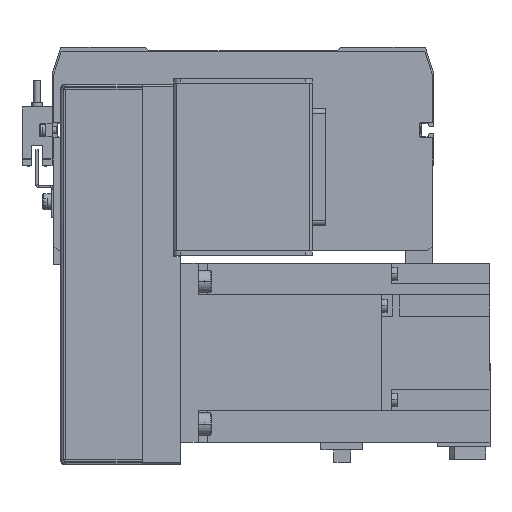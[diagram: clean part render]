
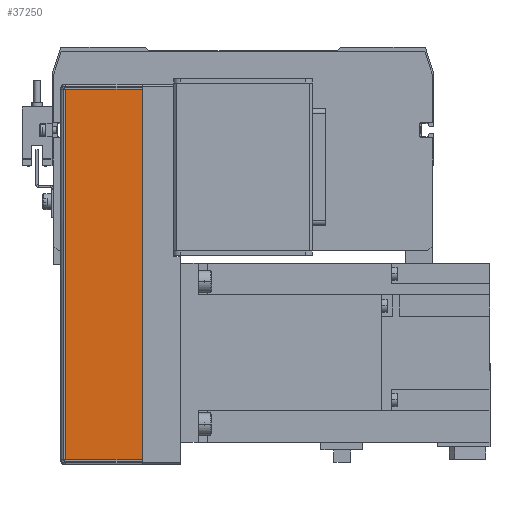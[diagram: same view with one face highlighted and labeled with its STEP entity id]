
A CAD part, front view. The second image highlights one B-rep face of the part: STEP entity #37250.
In plain terms, the highlighted planar face has unit normal (0, -1, 0) as drawn and (0, 1, 0) by its records, which use the part's own axes.
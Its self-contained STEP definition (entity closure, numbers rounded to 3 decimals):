
#1424 = CARTESIAN_POINT ( 'NONE',  ( -67.862, 39.222, 211.263 ) ) ;
#2357 = EDGE_CURVE ( 'NONE', #39058, #32518, #35622, .T. ) ;
#6131 = VECTOR ( 'NONE', #29365, 1000. ) ;
#7008 = ORIENTED_EDGE ( 'NONE', *, *, #34367, .F. ) ;
#7024 = CARTESIAN_POINT ( 'NONE',  ( 97.724, 39.222, 177. ) ) ;
#7202 = PLANE ( 'NONE',  #27608 ) ;
#8734 = VECTOR ( 'NONE', #32396, 1000. ) ;
#9354 = ORIENTED_EDGE ( 'NONE', *, *, #10338, .T. ) ;
#10251 = CARTESIAN_POINT ( 'NONE',  ( 14.931, 39.222, 213.5 ) ) ;
#10338 = EDGE_CURVE ( 'NONE', #32518, #17880, #22208, .T. ) ;
#10984 = CARTESIAN_POINT ( 'NONE',  ( 14.931, 39.222, 177. ) ) ;
#11244 = LINE ( 'NONE', #19527, #15990 ) ;
#12095 = EDGE_LOOP ( 'NONE', ( #15531, #7008, #28797, #9354 ) ) ;
#14475 = CARTESIAN_POINT ( 'NONE',  ( -70.069, 39.222, 211.263 ) ) ;
#15531 = ORIENTED_EDGE ( 'NONE', *, *, #21710, .F. ) ;
#15631 = CARTESIAN_POINT ( 'NONE',  ( -67.862, 39.222, 177. ) ) ;
#15990 = VECTOR ( 'NONE', #25867, 1000. ) ;
#17652 = DIRECTION ( 'NONE',  ( -1., 0., 0. ) ) ;
#17880 = VERTEX_POINT ( 'NONE', #15631 ) ;
#19240 = LINE ( 'NONE', #14475, #27232 ) ;
#19527 = CARTESIAN_POINT ( 'NONE',  ( -67.862, 39.222, 212. ) ) ;
#19776 = DIRECTION ( 'NONE',  ( 0., 0., -1. ) ) ;
#21710 = EDGE_CURVE ( 'NONE', #28356, #17880, #11244, .T. ) ;
#22208 = LINE ( 'NONE', #10984, #6131 ) ;
#22791 = DIRECTION ( 'NONE',  ( 0., -1., 0. ) ) ;
#23166 = CARTESIAN_POINT ( 'NONE',  ( 97.724, 39.222, 211.263 ) ) ;
#25867 = DIRECTION ( 'NONE',  ( 0., 0., -1. ) ) ;
#27232 = VECTOR ( 'NONE', #17652, 1000. ) ;
#27608 = AXIS2_PLACEMENT_3D ( 'NONE', #10251, #22791, #19776 ) ;
#28356 = VERTEX_POINT ( 'NONE', #1424 ) ;
#28797 = ORIENTED_EDGE ( 'NONE', *, *, #2357, .T. ) ;
#29365 = DIRECTION ( 'NONE',  ( -1., 0., 0. ) ) ;
#30604 = FACE_OUTER_BOUND ( 'NONE', #12095, .T. ) ;
#32396 = DIRECTION ( 'NONE',  ( 0., 0., -1. ) ) ;
#32518 = VERTEX_POINT ( 'NONE', #7024 ) ;
#34367 = EDGE_CURVE ( 'NONE', #39058, #28356, #19240, .T. ) ;
#35622 = LINE ( 'NONE', #35787, #8734 ) ;
#35787 = CARTESIAN_POINT ( 'NONE',  ( 97.724, 39.222, 213.5 ) ) ;
#37250 = ADVANCED_FACE ( 'NONE', ( #30604 ), #7202, .F. ) ;
#39058 = VERTEX_POINT ( 'NONE', #23166 ) ;
